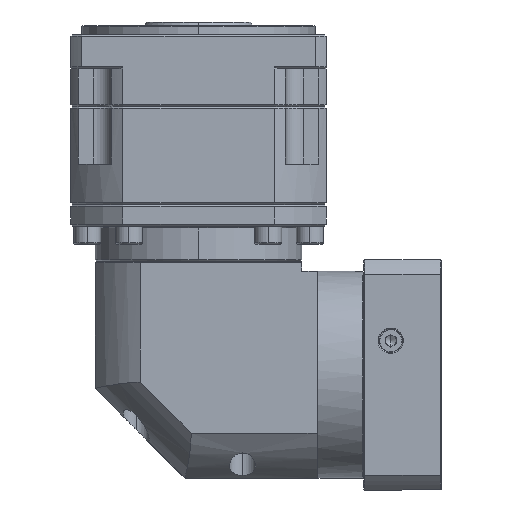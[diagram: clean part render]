
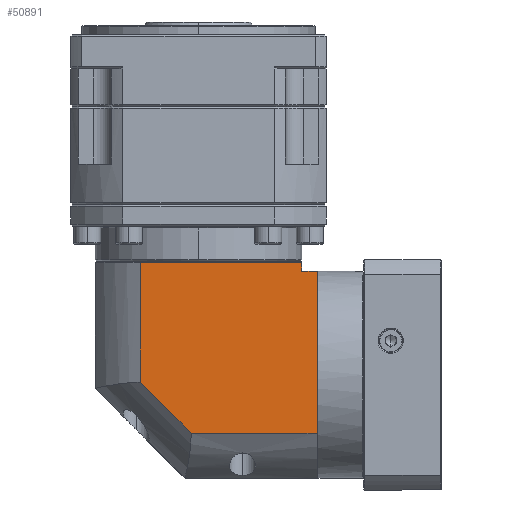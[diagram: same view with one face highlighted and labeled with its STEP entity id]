
A CAD part, left-side view. The second image highlights one B-rep face of the part: STEP entity #50891.
In plain terms, the highlighted planar face has unit normal (-1, 0, 0).
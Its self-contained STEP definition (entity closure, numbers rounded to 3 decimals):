
#645 = CARTESIAN_POINT ( 'NONE',  ( -230.614, -75.873, 123.192 ) ) ;
#2373 = CARTESIAN_POINT ( 'NONE',  ( -230.614, -84.273, 123.192 ) ) ;
#8278 = EDGE_CURVE ( 'NONE', #84943, #133219, #46217, .T. ) ;
#16761 = ORIENTED_EDGE ( 'NONE', *, *, #138837, .T. ) ;
#22834 = ORIENTED_EDGE ( 'NONE', *, *, #65692, .F. ) ;
#29423 = CARTESIAN_POINT ( 'NONE',  ( -230.614, 14.027, 61.63 ) ) ;
#37256 = LINE ( 'NONE', #80522, #56430 ) ;
#38484 = ORIENTED_EDGE ( 'NONE', *, *, #8278, .F. ) ;
#39100 = ORIENTED_EDGE ( 'NONE', *, *, #160555, .F. ) ;
#40472 = VERTEX_POINT ( 'NONE', #2373 ) ;
#44073 = CARTESIAN_POINT ( 'NONE',  ( -230.614, 14.027, 128.192 ) ) ;
#46217 = LINE ( 'NONE', #111134, #78205 ) ;
#47664 = EDGE_CURVE ( 'NONE', #118024, #84943, #132573, .T. ) ;
#50630 = FACE_OUTER_BOUND ( 'NONE', #173363, .T. ) ;
#50891 = ADVANCED_FACE ( 'NONE', ( #50630 ), #136271, .F. ) ;
#51316 = CARTESIAN_POINT ( 'NONE',  ( -230.614, 14.027, 134.692 ) ) ;
#53056 = EDGE_CURVE ( 'NONE', #123703, #87464, #160260, .T. ) ;
#54546 = AXIS2_PLACEMENT_3D ( 'NONE', #93341, #67725, #164179 ) ;
#56430 = VECTOR ( 'NONE', #67405, 1000. ) ;
#59023 = CARTESIAN_POINT ( 'NONE',  ( -230.614, -75.873, 8.192 ) ) ;
#61884 = CARTESIAN_POINT ( 'NONE',  ( -230.614, -14.311, 33.292 ) ) ;
#65692 = EDGE_CURVE ( 'NONE', #40472, #118024, #37256, .T. ) ;
#67405 = DIRECTION ( 'NONE',  ( 0., 0., -1. ) ) ;
#67725 = DIRECTION ( 'NONE',  ( 1., 0., 0. ) ) ;
#78205 = VECTOR ( 'NONE', #124845, 1000. ) ;
#79237 = VECTOR ( 'NONE', #141231, 1000. ) ;
#80522 = CARTESIAN_POINT ( 'NONE',  ( -230.614, -84.273, 134.692 ) ) ;
#82163 = VERTEX_POINT ( 'NONE', #44073 ) ;
#82801 = DIRECTION ( 'NONE',  ( 0., 1., 0. ) ) ;
#84943 = VERTEX_POINT ( 'NONE', #61884 ) ;
#87464 = VERTEX_POINT ( 'NONE', #144363 ) ;
#91625 = CARTESIAN_POINT ( 'NONE',  ( -230.614, 39.127, 128.192 ) ) ;
#92024 = VECTOR ( 'NONE', #82801, 1000. ) ;
#93341 = CARTESIAN_POINT ( 'NONE',  ( -230.614, 39.127, 134.692 ) ) ;
#101041 = LINE ( 'NONE', #51316, #143723 ) ;
#102666 = CARTESIAN_POINT ( 'NONE',  ( -230.614, -75.873, 123.192 ) ) ;
#104245 = CARTESIAN_POINT ( 'NONE',  ( -230.614, -84.273, 33.292 ) ) ;
#105231 = VECTOR ( 'NONE', #125229, 1000. ) ;
#107620 = VECTOR ( 'NONE', #119629, 1000. ) ;
#111134 = CARTESIAN_POINT ( 'NONE',  ( -230.614, -14.311, 33.292 ) ) ;
#118024 = VERTEX_POINT ( 'NONE', #104245 ) ;
#119629 = DIRECTION ( 'NONE',  ( 0., -1., 0. ) ) ;
#123703 = VERTEX_POINT ( 'NONE', #102666 ) ;
#124845 = DIRECTION ( 'NONE',  ( 0., 0.707, 0.707 ) ) ;
#125229 = DIRECTION ( 'NONE',  ( 0., 1., 0. ) ) ;
#132573 = LINE ( 'NONE', #164958, #92024 ) ;
#133219 = VERTEX_POINT ( 'NONE', #29423 ) ;
#136271 = PLANE ( 'NONE',  #54546 ) ;
#138837 = EDGE_CURVE ( 'NONE', #40472, #123703, #168993, .T. ) ;
#139814 = ORIENTED_EDGE ( 'NONE', *, *, #53056, .T. ) ;
#141231 = DIRECTION ( 'NONE',  ( 0., 0., 1. ) ) ;
#143723 = VECTOR ( 'NONE', #146693, 1000. ) ;
#144363 = CARTESIAN_POINT ( 'NONE',  ( -230.614, -75.873, 128.192 ) ) ;
#146693 = DIRECTION ( 'NONE',  ( 0., 0., 1. ) ) ;
#156425 = EDGE_CURVE ( 'NONE', #82163, #87464, #167121, .T. ) ;
#156892 = ORIENTED_EDGE ( 'NONE', *, *, #47664, .F. ) ;
#160260 = LINE ( 'NONE', #59023, #79237 ) ;
#160555 = EDGE_CURVE ( 'NONE', #133219, #82163, #101041, .T. ) ;
#164179 = DIRECTION ( 'NONE',  ( 0., 1., 0. ) ) ;
#164958 = CARTESIAN_POINT ( 'NONE',  ( -230.614, 39.127, 33.292 ) ) ;
#167121 = LINE ( 'NONE', #91625, #107620 ) ;
#168993 = LINE ( 'NONE', #645, #105231 ) ;
#172839 = ORIENTED_EDGE ( 'NONE', *, *, #156425, .F. ) ;
#173363 = EDGE_LOOP ( 'NONE', ( #39100, #38484, #156892, #22834, #16761, #139814, #172839 ) ) ;
